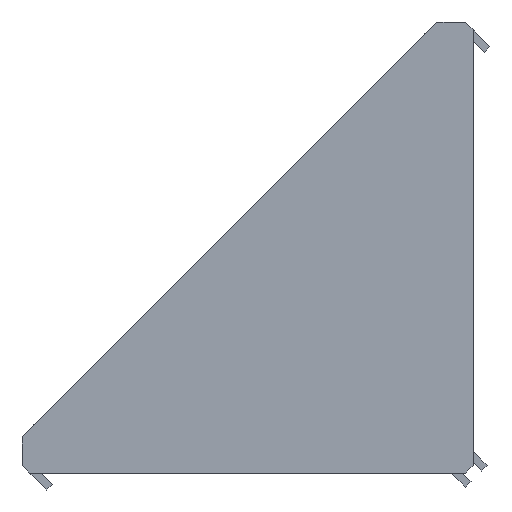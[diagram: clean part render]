
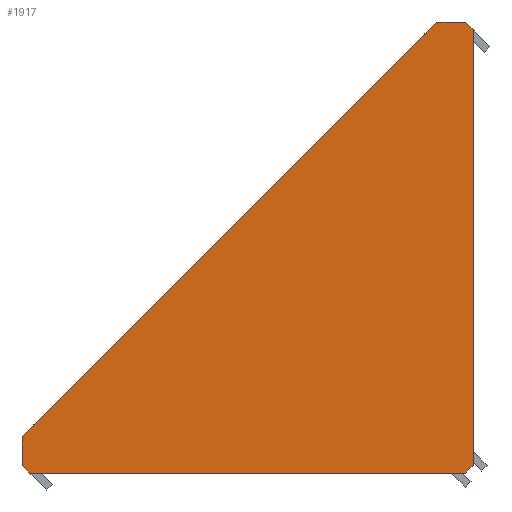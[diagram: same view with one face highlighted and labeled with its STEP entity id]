
A CAD part, left-side view. The second image highlights one B-rep face of the part: STEP entity #1917.
In plain terms, the highlighted planar face has unit normal (-1, 0, 0).
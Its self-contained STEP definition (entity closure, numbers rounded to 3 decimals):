
#7 = EDGE_CURVE ( 'NONE', #3152, #4390, #2888, .T. ) ;
#223 = VERTEX_POINT ( 'NONE', #1185 ) ;
#248 = LINE ( 'NONE', #3283, #1749 ) ;
#257 = CARTESIAN_POINT ( 'NONE',  ( -27.9, 28.5, -23.914 ) ) ;
#264 = LINE ( 'NONE', #1019, #4140 ) ;
#487 = VERTEX_POINT ( 'NONE', #2839 ) ;
#489 = VECTOR ( 'NONE', #2138, 1000. ) ;
#639 = DIRECTION ( 'NONE',  ( 0., -0.707, 0.707 ) ) ;
#748 = CARTESIAN_POINT ( 'NONE',  ( -27.9, 28.5, -27.5 ) ) ;
#1019 = CARTESIAN_POINT ( 'NONE',  ( -27.9, 28.5, -23.914 ) ) ;
#1091 = AXIS2_PLACEMENT_3D ( 'NONE', #5130, #6025, #6219 ) ;
#1185 = CARTESIAN_POINT ( 'NONE',  ( -27.9, 27.5, -28.5 ) ) ;
#1346 = DIRECTION ( 'NONE',  ( 0., 1., 0. ) ) ;
#1440 = EDGE_CURVE ( 'NONE', #3838, #1990, #4014, .T. ) ;
#1558 = EDGE_CURVE ( 'NONE', #487, #223, #6135, .T. ) ;
#1749 = VECTOR ( 'NONE', #4633, 1000. ) ;
#1774 = CARTESIAN_POINT ( 'NONE',  ( -27.9, -28.5, -27.5 ) ) ;
#1833 = DIRECTION ( 'NONE',  ( 0., 0., 1. ) ) ;
#1849 = LINE ( 'NONE', #4393, #489 ) ;
#1917 = ADVANCED_FACE ( 'NONE', ( #2469 ), #5489, .F. ) ;
#1990 = VERTEX_POINT ( 'NONE', #257 ) ;
#2138 = DIRECTION ( 'NONE',  ( 0., 0., -1. ) ) ;
#2224 = EDGE_CURVE ( 'NONE', #487, #6252, #248, .T. ) ;
#2469 = FACE_OUTER_BOUND ( 'NONE', #2815, .T. ) ;
#2474 = CARTESIAN_POINT ( 'NONE',  ( -27.9, -22.5, 28.5 ) ) ;
#2551 = ORIENTED_EDGE ( 'NONE', *, *, #1440, .F. ) ;
#2622 = LINE ( 'NONE', #2474, #6212 ) ;
#2705 = EDGE_CURVE ( 'NONE', #2737, #4390, #2622, .T. ) ;
#2737 = VERTEX_POINT ( 'NONE', #2960 ) ;
#2815 = EDGE_LOOP ( 'NONE', ( #4224, #4069, #2551, #4229, #3879, #5112, #6197, #3711 ) ) ;
#2839 = CARTESIAN_POINT ( 'NONE',  ( -27.9, -27.5, -28.5 ) ) ;
#2842 = VECTOR ( 'NONE', #1833, 1000. ) ;
#2888 = LINE ( 'NONE', #3588, #4063 ) ;
#2960 = CARTESIAN_POINT ( 'NONE',  ( -27.9, -23.914, 28.5 ) ) ;
#2991 = CARTESIAN_POINT ( 'NONE',  ( -27.9, 28.5, -28.5 ) ) ;
#3015 = VECTOR ( 'NONE', #6292, 1000. ) ;
#3152 = VERTEX_POINT ( 'NONE', #3195 ) ;
#3195 = CARTESIAN_POINT ( 'NONE',  ( -27.9, -28.5, 27.5 ) ) ;
#3283 = CARTESIAN_POINT ( 'NONE',  ( -27.9, -27.5, -28.5 ) ) ;
#3588 = CARTESIAN_POINT ( 'NONE',  ( -27.9, -28.5, 27.5 ) ) ;
#3711 = ORIENTED_EDGE ( 'NONE', *, *, #7, .T. ) ;
#3838 = VERTEX_POINT ( 'NONE', #6096 ) ;
#3879 = ORIENTED_EDGE ( 'NONE', *, *, #1558, .F. ) ;
#4014 = LINE ( 'NONE', #2991, #2842 ) ;
#4016 = DIRECTION ( 'NONE',  ( 0., -1., 0. ) ) ;
#4044 = CARTESIAN_POINT ( 'NONE',  ( -27.9, -28.5, -28.5 ) ) ;
#4063 = VECTOR ( 'NONE', #4418, 1000. ) ;
#4069 = ORIENTED_EDGE ( 'NONE', *, *, #5482, .F. ) ;
#4140 = VECTOR ( 'NONE', #639, 1000. ) ;
#4224 = ORIENTED_EDGE ( 'NONE', *, *, #2705, .F. ) ;
#4229 = ORIENTED_EDGE ( 'NONE', *, *, #6110, .T. ) ;
#4286 = CARTESIAN_POINT ( 'NONE',  ( -27.9, -27.5, 28.5 ) ) ;
#4390 = VERTEX_POINT ( 'NONE', #4286 ) ;
#4393 = CARTESIAN_POINT ( 'NONE',  ( -27.9, -28.5, 28.5 ) ) ;
#4418 = DIRECTION ( 'NONE',  ( 0., 0.707, 0.707 ) ) ;
#4633 = DIRECTION ( 'NONE',  ( 0., -0.707, 0.707 ) ) ;
#5112 = ORIENTED_EDGE ( 'NONE', *, *, #2224, .T. ) ;
#5130 = CARTESIAN_POINT ( 'NONE',  ( -27.9, 0., 0. ) ) ;
#5482 = EDGE_CURVE ( 'NONE', #1990, #2737, #264, .T. ) ;
#5489 = PLANE ( 'NONE',  #1091 ) ;
#5645 = LINE ( 'NONE', #748, #3015 ) ;
#5691 = EDGE_CURVE ( 'NONE', #3152, #6252, #1849, .T. ) ;
#5856 = VECTOR ( 'NONE', #1346, 1000. ) ;
#6025 = DIRECTION ( 'NONE',  ( 1., 0., 0. ) ) ;
#6096 = CARTESIAN_POINT ( 'NONE',  ( -27.9, 28.5, -27.5 ) ) ;
#6110 = EDGE_CURVE ( 'NONE', #3838, #223, #5645, .T. ) ;
#6135 = LINE ( 'NONE', #4044, #5856 ) ;
#6197 = ORIENTED_EDGE ( 'NONE', *, *, #5691, .F. ) ;
#6212 = VECTOR ( 'NONE', #4016, 1000. ) ;
#6219 = DIRECTION ( 'NONE',  ( 0., 0., -1. ) ) ;
#6252 = VERTEX_POINT ( 'NONE', #1774 ) ;
#6292 = DIRECTION ( 'NONE',  ( 0., -0.707, -0.707 ) ) ;
